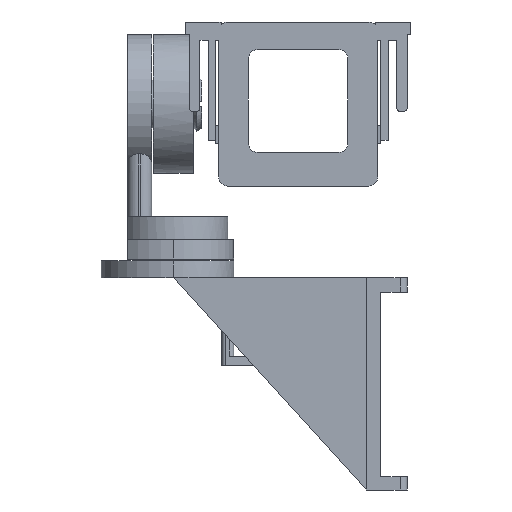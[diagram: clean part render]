
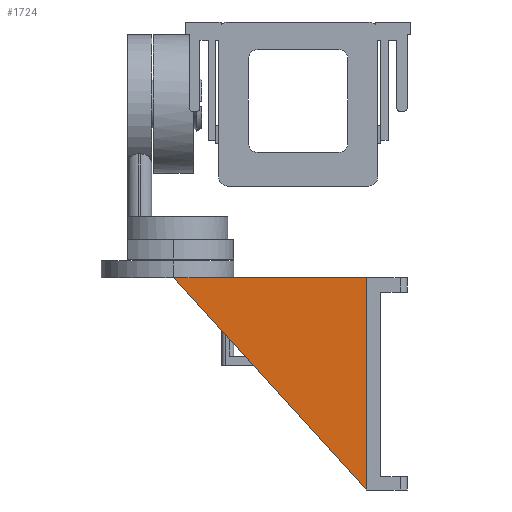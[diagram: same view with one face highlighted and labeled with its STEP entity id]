
A CAD part, left-side view. The second image highlights one B-rep face of the part: STEP entity #1724.
In plain terms, the highlighted planar face has unit normal (-1, 0, 0).
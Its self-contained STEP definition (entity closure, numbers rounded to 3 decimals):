
#238 = PLANE('',#239);
#239 = AXIS2_PLACEMENT_3D('',#240,#241,#242);
#240 = CARTESIAN_POINT('',(36.,35.6,35.4));
#241 = DIRECTION('',(0.,0.,1.));
#242 = DIRECTION('',(1.,0.,-0.));
#264 = PLANE('',#265);
#265 = AXIS2_PLACEMENT_3D('',#266,#267,#268);
#266 = CARTESIAN_POINT('',(37.2,38.,0.2));
#267 = DIRECTION('',(0.,1.,0.));
#268 = DIRECTION('',(1.,0.,0.));
#425 = VERTEX_POINT('',#426);
#426 = CARTESIAN_POINT('',(42.,38.,0.2));
#440 = PLANE('',#441);
#441 = AXIS2_PLACEMENT_3D('',#442,#443,#444);
#442 = CARTESIAN_POINT('',(42.,38.,0.2));
#443 = DIRECTION('',(0.,-0.74,0.673)
  );
#444 = DIRECTION('',(0.,0.673,0.74)
  );
#978 = VERTEX_POINT('',#979);
#979 = CARTESIAN_POINT('',(42.,65.641,35.4));
#1006 = EDGE_CURVE('',#978,#1007,#1009,.T.);
#1007 = VERTEX_POINT('',#1008);
#1008 = CARTESIAN_POINT('',(42.,38.,35.4));
#1009 = SURFACE_CURVE('',#1010,(#1014,#1021),.PCURVE_S1.);
#1010 = LINE('',#1011,#1012);
#1011 = CARTESIAN_POINT('',(42.,65.641,35.4));
#1012 = VECTOR('',#1013,1.);
#1013 = DIRECTION('',(0.,-1.,0.));
#1014 = PCURVE('',#238,#1015);
#1015 = DEFINITIONAL_REPRESENTATION('',(#1016),#1020);
#1016 = LINE('',#1017,#1018);
#1017 = CARTESIAN_POINT('',(6.,30.041));
#1018 = VECTOR('',#1019,1.);
#1019 = DIRECTION('',(0.,-1.));
#1020 = ( GEOMETRIC_REPRESENTATION_CONTEXT(2) 
PARAMETRIC_REPRESENTATION_CONTEXT() REPRESENTATION_CONTEXT('2D SPACE',''
  ) );
#1021 = PCURVE('',#1022,#1027);
#1022 = PLANE('',#1023);
#1023 = AXIS2_PLACEMENT_3D('',#1024,#1025,#1026);
#1024 = CARTESIAN_POINT('',(42.,49.093,22.707));
#1025 = DIRECTION('',(1.,0.,0.));
#1026 = DIRECTION('',(0.,1.,0.));
#1027 = DEFINITIONAL_REPRESENTATION('',(#1028),#1032);
#1028 = LINE('',#1029,#1030);
#1029 = CARTESIAN_POINT('',(16.548,12.693));
#1030 = VECTOR('',#1031,1.);
#1031 = DIRECTION('',(-1.,0.));
#1032 = ( GEOMETRIC_REPRESENTATION_CONTEXT(2) 
PARAMETRIC_REPRESENTATION_CONTEXT() REPRESENTATION_CONTEXT('2D SPACE',''
  ) );
#1061 = EDGE_CURVE('',#1007,#425,#1062,.T.);
#1062 = SURFACE_CURVE('',#1063,(#1067,#1074),.PCURVE_S1.);
#1063 = LINE('',#1064,#1065);
#1064 = CARTESIAN_POINT('',(42.,38.,35.4));
#1065 = VECTOR('',#1066,1.);
#1066 = DIRECTION('',(0.,0.,-1.));
#1067 = PCURVE('',#264,#1068);
#1068 = DEFINITIONAL_REPRESENTATION('',(#1069),#1073);
#1069 = LINE('',#1070,#1071);
#1070 = CARTESIAN_POINT('',(4.8,-35.2));
#1071 = VECTOR('',#1072,1.);
#1072 = DIRECTION('',(0.,1.));
#1073 = ( GEOMETRIC_REPRESENTATION_CONTEXT(2) 
PARAMETRIC_REPRESENTATION_CONTEXT() REPRESENTATION_CONTEXT('2D SPACE',''
  ) );
#1074 = PCURVE('',#1022,#1075);
#1075 = DEFINITIONAL_REPRESENTATION('',(#1076),#1080);
#1076 = LINE('',#1077,#1078);
#1077 = CARTESIAN_POINT('',(-11.093,12.693));
#1078 = VECTOR('',#1079,1.);
#1079 = DIRECTION('',(0.,-1.));
#1080 = ( GEOMETRIC_REPRESENTATION_CONTEXT(2) 
PARAMETRIC_REPRESENTATION_CONTEXT() REPRESENTATION_CONTEXT('2D SPACE',''
  ) );
#1318 = VERTEX_POINT('',#1319);
#1319 = CARTESIAN_POINT('',(42.,70.,35.4));
#1333 = PLANE('',#1334);
#1334 = AXIS2_PLACEMENT_3D('',#1335,#1336,#1337);
#1335 = CARTESIAN_POINT('',(51.,70.,35.4));
#1336 = DIRECTION('',(0.,0.,1.));
#1337 = DIRECTION('',(1.,0.,-0.));
#1345 = EDGE_CURVE('',#425,#1318,#1346,.T.);
#1346 = SURFACE_CURVE('',#1347,(#1351,#1358),.PCURVE_S1.);
#1347 = LINE('',#1348,#1349);
#1348 = CARTESIAN_POINT('',(42.,38.,0.2));
#1349 = VECTOR('',#1350,1.);
#1350 = DIRECTION('',(0.,0.673,0.74)
  );
#1351 = PCURVE('',#440,#1352);
#1352 = DEFINITIONAL_REPRESENTATION('',(#1353),#1357);
#1353 = LINE('',#1354,#1355);
#1354 = CARTESIAN_POINT('',(0.,0.));
#1355 = VECTOR('',#1356,1.);
#1356 = DIRECTION('',(1.,0.));
#1357 = ( GEOMETRIC_REPRESENTATION_CONTEXT(2) 
PARAMETRIC_REPRESENTATION_CONTEXT() REPRESENTATION_CONTEXT('2D SPACE',''
  ) );
#1358 = PCURVE('',#1022,#1359);
#1359 = DEFINITIONAL_REPRESENTATION('',(#1360),#1364);
#1360 = LINE('',#1361,#1362);
#1361 = CARTESIAN_POINT('',(-11.093,-22.507));
#1362 = VECTOR('',#1363,1.);
#1363 = DIRECTION('',(0.673,0.74));
#1364 = ( GEOMETRIC_REPRESENTATION_CONTEXT(2) 
PARAMETRIC_REPRESENTATION_CONTEXT() REPRESENTATION_CONTEXT('2D SPACE',''
  ) );
#1724 = ADVANCED_FACE('',(#1725),#1022,.F.);
#1725 = FACE_BOUND('',#1726,.F.);
#1726 = EDGE_LOOP('',(#1727,#1728,#1749,#1750));
#1727 = ORIENTED_EDGE('',*,*,#1345,.T.);
#1728 = ORIENTED_EDGE('',*,*,#1729,.T.);
#1729 = EDGE_CURVE('',#1318,#978,#1730,.T.);
#1730 = SURFACE_CURVE('',#1731,(#1735,#1742),.PCURVE_S1.);
#1731 = LINE('',#1732,#1733);
#1732 = CARTESIAN_POINT('',(42.,70.,35.4));
#1733 = VECTOR('',#1734,1.);
#1734 = DIRECTION('',(0.,-1.,0.));
#1735 = PCURVE('',#1022,#1736);
#1736 = DEFINITIONAL_REPRESENTATION('',(#1737),#1741);
#1737 = LINE('',#1738,#1739);
#1738 = CARTESIAN_POINT('',(20.907,12.693));
#1739 = VECTOR('',#1740,1.);
#1740 = DIRECTION('',(-1.,0.));
#1741 = ( GEOMETRIC_REPRESENTATION_CONTEXT(2) 
PARAMETRIC_REPRESENTATION_CONTEXT() REPRESENTATION_CONTEXT('2D SPACE',''
  ) );
#1742 = PCURVE('',#1333,#1743);
#1743 = DEFINITIONAL_REPRESENTATION('',(#1744),#1748);
#1744 = LINE('',#1745,#1746);
#1745 = CARTESIAN_POINT('',(-9.,0.));
#1746 = VECTOR('',#1747,1.);
#1747 = DIRECTION('',(0.,-1.));
#1748 = ( GEOMETRIC_REPRESENTATION_CONTEXT(2) 
PARAMETRIC_REPRESENTATION_CONTEXT() REPRESENTATION_CONTEXT('2D SPACE',''
  ) );
#1749 = ORIENTED_EDGE('',*,*,#1006,.T.);
#1750 = ORIENTED_EDGE('',*,*,#1061,.T.);
